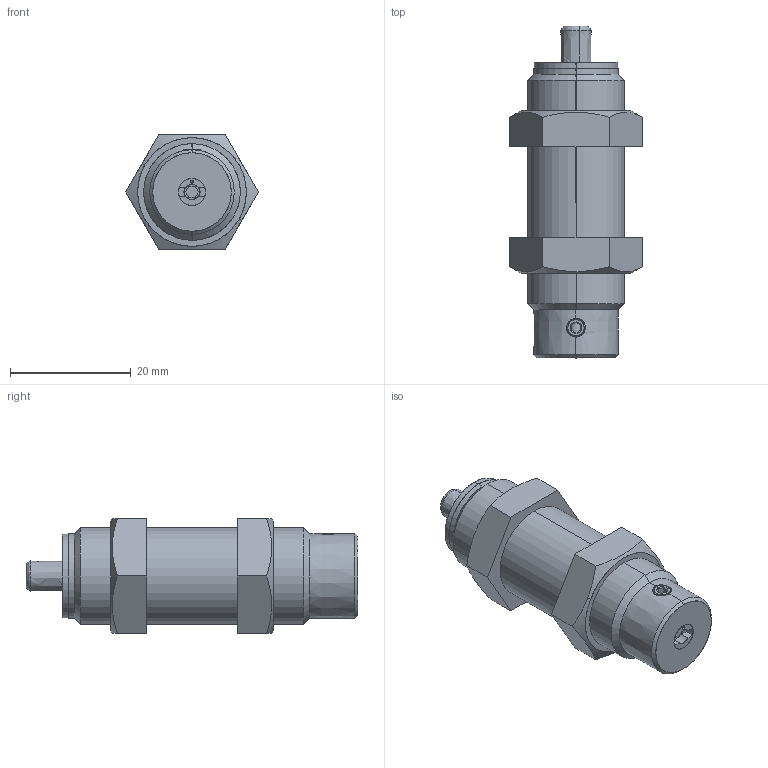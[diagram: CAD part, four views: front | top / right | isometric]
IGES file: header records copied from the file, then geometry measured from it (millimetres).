
Start section: SolidWorks IGES file using analytic representation for surfaces
Bounding box: 21.94 x 55 x 19 mm (x, y, z)
Surface area: 4441.4 mm2 (no closed solid volume)
Topology: 0 solids, 0 shells, 81 faces, 1198 edges, 1196 vertices
Faces by surface type: bspline 45, revolution 36
